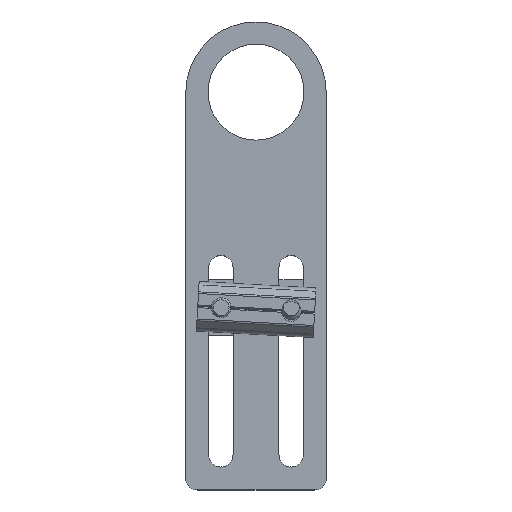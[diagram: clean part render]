
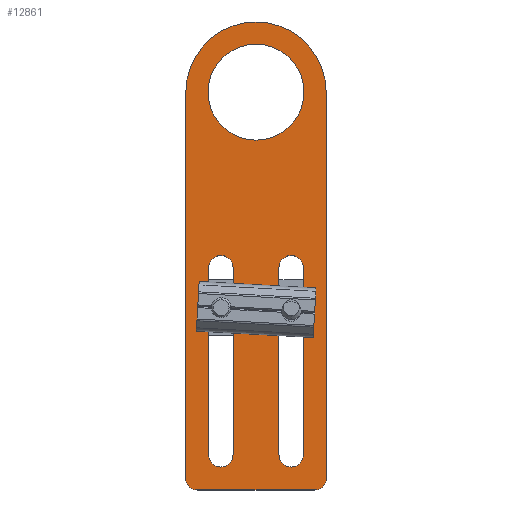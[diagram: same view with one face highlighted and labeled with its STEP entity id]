
A CAD part, top view. The second image highlights one B-rep face of the part: STEP entity #12861.
In plain terms, the highlighted planar face has unit normal (0, 0, 1).
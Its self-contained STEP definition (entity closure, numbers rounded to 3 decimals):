
#196 = CIRCLE ( 'NONE', #596, 15. ) ;
#207 = CARTESIAN_POINT ( 'NONE',  ( -80.215, -62.922, 46.011 ) ) ;
#403 = DIRECTION ( 'NONE',  ( 0., 0., 1. ) ) ;
#477 = LINE ( 'NONE', #9558, #15321 ) ;
#579 = DIRECTION ( 'NONE',  ( 0., 0., -1. ) ) ;
#596 = AXIS2_PLACEMENT_3D ( 'NONE', #24572, #13091, #1487 ) ;
#641 = EDGE_CURVE ( 'NONE', #19019, #6611, #13207, .T. ) ;
#700 = CARTESIAN_POINT ( 'NONE',  ( -80.215, -60.422, 46.011 ) ) ;
#1094 = VERTEX_POINT ( 'NONE', #207 ) ;
#1171 = AXIS2_PLACEMENT_3D ( 'NONE', #8570, #21926, #10491 ) ;
#1209 = LINE ( 'NONE', #21669, #21094 ) ;
#1269 = CARTESIAN_POINT ( 'NONE',  ( -75.215, -55.422, 46.011 ) ) ;
#1273 = DIRECTION ( 'NONE',  ( 0., 1., 0. ) ) ;
#1297 = VERTEX_POINT ( 'NONE', #4937 ) ;
#1485 = CARTESIAN_POINT ( 'NONE',  ( -57.615, -15.422, 46.011 ) ) ;
#1487 = DIRECTION ( 'NONE',  ( 1., 0., 0. ) ) ;
#1613 = FACE_BOUND ( 'NONE', #24932, .T. ) ;
#1773 = PLANE ( 'NONE',  #5314 ) ;
#1844 = ORIENTED_EDGE ( 'NONE', *, *, #25018, .F. ) ;
#2063 = CIRCLE ( 'NONE', #4218, 10.25 ) ;
#2460 = AXIS2_PLACEMENT_3D ( 'NONE', #700, #14285, #2748 ) ;
#2498 = DIRECTION ( 'NONE',  ( 0., 0., -1. ) ) ;
#2567 = DIRECTION ( 'NONE',  ( 0., 0., 1. ) ) ;
#2579 = CARTESIAN_POINT ( 'NONE',  ( -52.715, -60.422, 46.011 ) ) ;
#2748 = DIRECTION ( 'NONE',  ( 1., 0., 0. ) ) ;
#3040 = CARTESIAN_POINT ( 'NONE',  ( -57.465, 22.078, 46.011 ) ) ;
#3295 = DIRECTION ( 'NONE',  ( 1., 0., 0. ) ) ;
#3469 = VERTEX_POINT ( 'NONE', #4619 ) ;
#3719 = ORIENTED_EDGE ( 'NONE', *, *, #17825, .T. ) ;
#3863 = DIRECTION ( 'NONE',  ( 0., 0., 1. ) ) ;
#4218 = AXIS2_PLACEMENT_3D ( 'NONE', #12051, #403, #13982 ) ;
#4528 = AXIS2_PLACEMENT_3D ( 'NONE', #14107, #2567, #16004 ) ;
#4536 = CARTESIAN_POINT ( 'NONE',  ( -75.215, -15.422, 46.011 ) ) ;
#4619 = CARTESIAN_POINT ( 'NONE',  ( -62.815, -15.422, 46.011 ) ) ;
#4730 = EDGE_CURVE ( 'NONE', #18863, #11889, #22142, .T. ) ;
#4937 = CARTESIAN_POINT ( 'NONE',  ( -55.215, -62.922, 46.011 ) ) ;
#5007 = CARTESIAN_POINT ( 'NONE',  ( -77.815, -12.622, 46.011 ) ) ;
#5313 = VERTEX_POINT ( 'NONE', #17822 ) ;
#5314 = AXIS2_PLACEMENT_3D ( 'NONE', #15350, #3863, #17228 ) ;
#5861 = CARTESIAN_POINT ( 'NONE',  ( -62.815, -55.422, 46.011 ) ) ;
#5905 = ORIENTED_EDGE ( 'NONE', *, *, #18864, .T. ) ;
#6387 = EDGE_CURVE ( 'NONE', #12484, #19019, #23449, .T. ) ;
#6461 = DIRECTION ( 'NONE',  ( 1., 0., 0. ) ) ;
#6611 = VERTEX_POINT ( 'NONE', #15683 ) ;
#6654 = CARTESIAN_POINT ( 'NONE',  ( -82.715, -12.622, 46.011 ) ) ;
#6842 = FACE_BOUND ( 'NONE', #7124, .T. ) ;
#6998 = ORIENTED_EDGE ( 'NONE', *, *, #17046, .T. ) ;
#7124 = EDGE_LOOP ( 'NONE', ( #24945, #17724, #18915, #21672 ) ) ;
#7286 = EDGE_CURVE ( 'NONE', #20248, #7744, #8559, .T. ) ;
#7349 = ORIENTED_EDGE ( 'NONE', *, *, #7846, .T. ) ;
#7445 = FACE_BOUND ( 'NONE', #9820, .T. ) ;
#7744 = VERTEX_POINT ( 'NONE', #10104 ) ;
#7828 = EDGE_CURVE ( 'NONE', #18171, #23417, #24397, .T. ) ;
#7846 = EDGE_CURVE ( 'NONE', #15189, #3469, #23802, .T. ) ;
#7952 = ORIENTED_EDGE ( 'NONE', *, *, #19915, .T. ) ;
#8034 = CARTESIAN_POINT ( 'NONE',  ( -72.615, -55.422, 46.011 ) ) ;
#8136 = VECTOR ( 'NONE', #1273, 1000. ) ;
#8267 = ORIENTED_EDGE ( 'NONE', *, *, #13008, .T. ) ;
#8559 = LINE ( 'NONE', #24748, #13037 ) ;
#8570 = CARTESIAN_POINT ( 'NONE',  ( -55.215, -60.422, 46.011 ) ) ;
#8894 = CARTESIAN_POINT ( 'NONE',  ( -77.815, -55.422, 46.011 ) ) ;
#8904 = VECTOR ( 'NONE', #10911, 1000. ) ;
#9558 = CARTESIAN_POINT ( 'NONE',  ( -52.715, -12.622, 46.011 ) ) ;
#9691 = CIRCLE ( 'NONE', #2460, 2.5 ) ;
#9820 = EDGE_LOOP ( 'NONE', ( #7952, #7349, #24542, #21941 ) ) ;
#10104 = CARTESIAN_POINT ( 'NONE',  ( -57.615, -55.422, 46.011 ) ) ;
#10491 = DIRECTION ( 'NONE',  ( 1., 0., 0. ) ) ;
#10590 = DIRECTION ( 'NONE',  ( 0., -1., 0. ) ) ;
#10767 = CIRCLE ( 'NONE', #19812, 2.6 ) ;
#10911 = DIRECTION ( 'NONE',  ( 1., 0., 0. ) ) ;
#11889 = VERTEX_POINT ( 'NONE', #19639 ) ;
#11968 = VECTOR ( 'NONE', #10590, 1000. ) ;
#12051 = CARTESIAN_POINT ( 'NONE',  ( -67.715, 22.078, 46.011 ) ) ;
#12168 = CARTESIAN_POINT ( 'NONE',  ( -62.815, -12.622, 46.011 ) ) ;
#12208 = CARTESIAN_POINT ( 'NONE',  ( -60.215, -15.422, 46.011 ) ) ;
#12242 = AXIS2_PLACEMENT_3D ( 'NONE', #1269, #14825, #3295 ) ;
#12484 = VERTEX_POINT ( 'NONE', #8034 ) ;
#12861 = ADVANCED_FACE ( 'NONE', ( #7445, #6842, #1613, #21482 ), #1773, .T. ) ;
#13008 = EDGE_CURVE ( 'NONE', #1094, #1297, #23559, .T. ) ;
#13037 = VECTOR ( 'NONE', #15210, 1000. ) ;
#13091 = DIRECTION ( 'NONE',  ( 0., 0., 1. ) ) ;
#13207 = LINE ( 'NONE', #5007, #8136 ) ;
#13982 = DIRECTION ( 'NONE',  ( 1., 0., 0. ) ) ;
#14041 = CARTESIAN_POINT ( 'NONE',  ( -60.215, -55.422, 46.011 ) ) ;
#14107 = CARTESIAN_POINT ( 'NONE',  ( -67.715, 22.078, 46.011 ) ) ;
#14145 = DIRECTION ( 'NONE',  ( 1., 0., 0. ) ) ;
#14285 = DIRECTION ( 'NONE',  ( 0., 0., 1. ) ) ;
#14370 = CIRCLE ( 'NONE', #1171, 2.5 ) ;
#14825 = DIRECTION ( 'NONE',  ( 0., 0., -1. ) ) ;
#15189 = VERTEX_POINT ( 'NONE', #5861 ) ;
#15210 = DIRECTION ( 'NONE',  ( 0., -1., 0. ) ) ;
#15321 = VECTOR ( 'NONE', #24855, 1000. ) ;
#15350 = CARTESIAN_POINT ( 'NONE',  ( -82.715, -62.922, 46.011 ) ) ;
#15657 = CARTESIAN_POINT ( 'NONE',  ( -77.965, 22.078, 46.011 ) ) ;
#15683 = CARTESIAN_POINT ( 'NONE',  ( -77.815, -15.422, 46.011 ) ) ;
#15747 = VERTEX_POINT ( 'NONE', #22707 ) ;
#15943 = DIRECTION ( 'NONE',  ( 1., 0., 0. ) ) ;
#16004 = DIRECTION ( 'NONE',  ( 1., 0., 0. ) ) ;
#16467 = EDGE_CURVE ( 'NONE', #15747, #12484, #1209, .T. ) ;
#16879 = VERTEX_POINT ( 'NONE', #2579 ) ;
#16942 = EDGE_CURVE ( 'NONE', #11889, #1094, #9691, .T. ) ;
#17046 = EDGE_CURVE ( 'NONE', #5313, #18863, #196, .T. ) ;
#17228 = DIRECTION ( 'NONE',  ( 1., 0., 0. ) ) ;
#17667 = AXIS2_PLACEMENT_3D ( 'NONE', #14041, #2498, #15943 ) ;
#17724 = ORIENTED_EDGE ( 'NONE', *, *, #16467, .T. ) ;
#17822 = CARTESIAN_POINT ( 'NONE',  ( -52.715, 22.078, 46.011 ) ) ;
#17825 = EDGE_CURVE ( 'NONE', #16879, #5313, #477, .T. ) ;
#17836 = DIRECTION ( 'NONE',  ( 0., -1., 0. ) ) ;
#17854 = DIRECTION ( 'NONE',  ( 0., 0., -1. ) ) ;
#17874 = DIRECTION ( 'NONE',  ( 0., 1., 0. ) ) ;
#18171 = VERTEX_POINT ( 'NONE', #3040 ) ;
#18646 = VECTOR ( 'NONE', #17874, 1000. ) ;
#18863 = VERTEX_POINT ( 'NONE', #20992 ) ;
#18864 = EDGE_CURVE ( 'NONE', #1297, #16879, #14370, .T. ) ;
#18915 = ORIENTED_EDGE ( 'NONE', *, *, #6387, .T. ) ;
#19019 = VERTEX_POINT ( 'NONE', #8894 ) ;
#19024 = CIRCLE ( 'NONE', #22456, 2.6 ) ;
#19167 = ORIENTED_EDGE ( 'NONE', *, *, #16942, .T. ) ;
#19639 = CARTESIAN_POINT ( 'NONE',  ( -82.715, -60.422, 46.011 ) ) ;
#19812 = AXIS2_PLACEMENT_3D ( 'NONE', #4536, #17854, #6461 ) ;
#19915 = EDGE_CURVE ( 'NONE', #7744, #15189, #24723, .T. ) ;
#20248 = VERTEX_POINT ( 'NONE', #1485 ) ;
#20992 = CARTESIAN_POINT ( 'NONE',  ( -82.715, 22.078, 46.011 ) ) ;
#21008 = EDGE_CURVE ( 'NONE', #3469, #20248, #19024, .T. ) ;
#21019 = ORIENTED_EDGE ( 'NONE', *, *, #4730, .T. ) ;
#21094 = VECTOR ( 'NONE', #17836, 1000. ) ;
#21482 = FACE_OUTER_BOUND ( 'NONE', #21834, .T. ) ;
#21669 = CARTESIAN_POINT ( 'NONE',  ( -72.615, -12.622, 46.011 ) ) ;
#21672 = ORIENTED_EDGE ( 'NONE', *, *, #641, .T. ) ;
#21834 = EDGE_LOOP ( 'NONE', ( #19167, #8267, #5905, #3719, #6998, #21019 ) ) ;
#21926 = DIRECTION ( 'NONE',  ( 0., 0., 1. ) ) ;
#21941 = ORIENTED_EDGE ( 'NONE', *, *, #7286, .T. ) ;
#22142 = LINE ( 'NONE', #6654, #11968 ) ;
#22341 = CARTESIAN_POINT ( 'NONE',  ( -67.715, -62.922, 46.011 ) ) ;
#22456 = AXIS2_PLACEMENT_3D ( 'NONE', #12208, #579, #14145 ) ;
#22707 = CARTESIAN_POINT ( 'NONE',  ( -72.615, -15.422, 46.011 ) ) ;
#23417 = VERTEX_POINT ( 'NONE', #15657 ) ;
#23443 = EDGE_CURVE ( 'NONE', #6611, #15747, #10767, .T. ) ;
#23449 = CIRCLE ( 'NONE', #12242, 2.6 ) ;
#23559 = LINE ( 'NONE', #22341, #8904 ) ;
#23802 = LINE ( 'NONE', #12168, #18646 ) ;
#24378 = ORIENTED_EDGE ( 'NONE', *, *, #7828, .F. ) ;
#24397 = CIRCLE ( 'NONE', #4528, 10.25 ) ;
#24542 = ORIENTED_EDGE ( 'NONE', *, *, #21008, .T. ) ;
#24572 = CARTESIAN_POINT ( 'NONE',  ( -67.715, 22.078, 46.011 ) ) ;
#24723 = CIRCLE ( 'NONE', #17667, 2.6 ) ;
#24748 = CARTESIAN_POINT ( 'NONE',  ( -57.615, -12.622, 46.011 ) ) ;
#24855 = DIRECTION ( 'NONE',  ( 0., 1., 0. ) ) ;
#24932 = EDGE_LOOP ( 'NONE', ( #24378, #1844 ) ) ;
#24945 = ORIENTED_EDGE ( 'NONE', *, *, #23443, .T. ) ;
#25018 = EDGE_CURVE ( 'NONE', #23417, #18171, #2063, .T. ) ;
